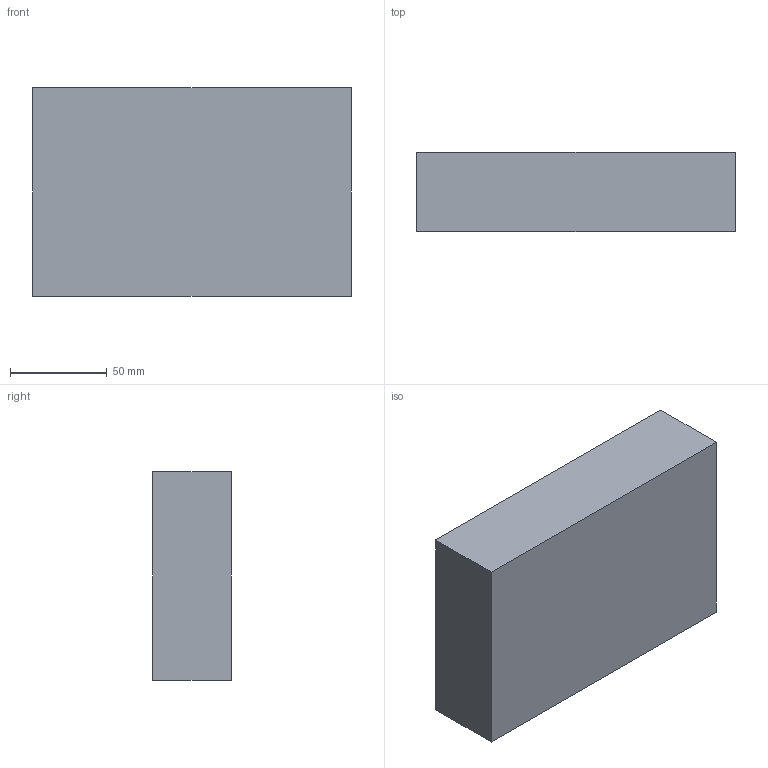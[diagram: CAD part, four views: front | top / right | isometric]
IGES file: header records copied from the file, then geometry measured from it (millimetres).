
Start section: SolidWorks IGES file using analytic representation for surfaces
Global section: file name: C:\Users\chad.chaiyont\My Project\MicroCase 3.0\MicroCase PID\M40-BOTTOM-REV-A-PID 12-13-2022.IGS; native system: SolidWorks 2021; preprocessor: SolidWorks 2021; author: Chad.Chaiyont; date: 221214.173429; units: millimetre
Bounding box: 164.91 x 40.88 x 107.76 mm (x, y, z)
Surface area: 72393.8 mm2 (no closed solid volume)
Topology: 0 solids, 0 shells, 199 faces, 1930 edges, 1930 vertices
Faces by surface type: bspline 123, revolution 76
